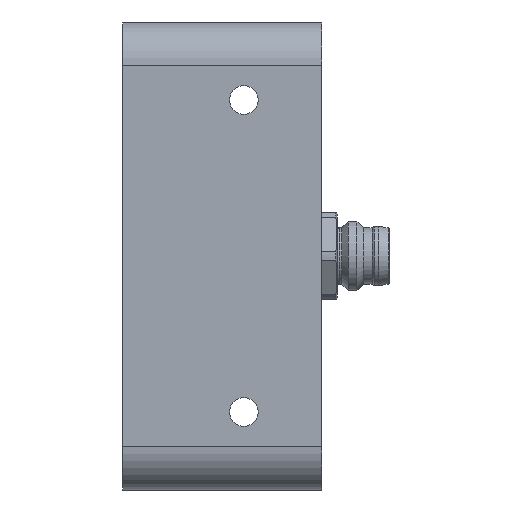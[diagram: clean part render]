
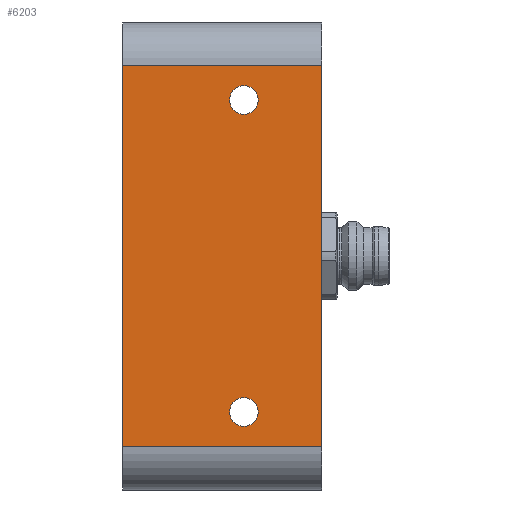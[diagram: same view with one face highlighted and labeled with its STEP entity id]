
A CAD part, left-side view. The second image highlights one B-rep face of the part: STEP entity #6203.
In plain terms, the highlighted planar face has unit normal (-1, 0, 0).
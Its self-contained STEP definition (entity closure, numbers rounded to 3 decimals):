
#19 = DIRECTION ( 'NONE',  ( 0., 0., -1. ) ) ;
#399 = VERTEX_POINT ( 'NONE', #8545 ) ;
#626 = VERTEX_POINT ( 'NONE', #6016 ) ;
#690 = EDGE_CURVE ( 'NONE', #626, #7824, #1178, .T. ) ;
#1107 = PLANE ( 'NONE',  #6176 ) ;
#1178 = LINE ( 'NONE', #4994, #3160 ) ;
#1691 = CARTESIAN_POINT ( 'NONE',  ( -105., 0., 22. ) ) ;
#1791 = ORIENTED_EDGE ( 'NONE', *, *, #2170, .F. ) ;
#2046 = VERTEX_POINT ( 'NONE', #8124 ) ;
#2086 = FACE_OUTER_BOUND ( 'NONE', #3684, .T. ) ;
#2107 = EDGE_LOOP ( 'NONE', ( #7711 ) ) ;
#2164 = DIRECTION ( 'NONE',  ( 0., 0., 1. ) ) ;
#2170 = EDGE_CURVE ( 'NONE', #6631, #7824, #5891, .T. ) ;
#2174 = EDGE_LOOP ( 'NONE', ( #7566 ) ) ;
#2204 = DIRECTION ( 'NONE',  ( 0., -1., 0. ) ) ;
#2481 = DIRECTION ( 'NONE',  ( -1., 0., 0. ) ) ;
#2599 = CARTESIAN_POINT ( 'NONE',  ( -105., 0., 27. ) ) ;
#2614 = AXIS2_PLACEMENT_3D ( 'NONE', #7665, #2862, #2164 ) ;
#2862 = DIRECTION ( 'NONE',  ( -1., 0., 0. ) ) ;
#2976 = VERTEX_POINT ( 'NONE', #7506 ) ;
#3160 = VECTOR ( 'NONE', #2204, 1000. ) ;
#3650 = CARTESIAN_POINT ( 'NONE',  ( -105., -23., -22. ) ) ;
#3655 = ORIENTED_EDGE ( 'NONE', *, *, #5068, .T. ) ;
#3684 = EDGE_LOOP ( 'NONE', ( #7231, #6112, #1791, #3655 ) ) ;
#3817 = VECTOR ( 'NONE', #5696, 1000. ) ;
#3827 = CIRCLE ( 'NONE', #2614, 1.65 ) ;
#3863 = FACE_BOUND ( 'NONE', #2174, .T. ) ;
#4460 = CARTESIAN_POINT ( 'NONE',  ( -105., -14., -18. ) ) ;
#4906 = EDGE_CURVE ( 'NONE', #2046, #2046, #3827, .T. ) ;
#4994 = CARTESIAN_POINT ( 'NONE',  ( -105., 0., -22. ) ) ;
#5068 = EDGE_CURVE ( 'NONE', #6631, #399, #8080, .T. ) ;
#5206 = DIRECTION ( 'NONE',  ( 0., 0., -1. ) ) ;
#5302 = EDGE_CURVE ( 'NONE', #626, #399, #7745, .T. ) ;
#5363 = CARTESIAN_POINT ( 'NONE',  ( -105., 0., 27. ) ) ;
#5584 = VECTOR ( 'NONE', #19, 1000. ) ;
#5694 = FACE_BOUND ( 'NONE', #2107, .T. ) ;
#5696 = DIRECTION ( 'NONE',  ( 0., 1., 0. ) ) ;
#5891 = LINE ( 'NONE', #6776, #5584 ) ;
#5961 = VECTOR ( 'NONE', #6184, 1000. ) ;
#6016 = CARTESIAN_POINT ( 'NONE',  ( -105., 0., -22. ) ) ;
#6112 = ORIENTED_EDGE ( 'NONE', *, *, #690, .T. ) ;
#6176 = AXIS2_PLACEMENT_3D ( 'NONE', #2599, #7939, #5206 ) ;
#6184 = DIRECTION ( 'NONE',  ( 0., 0., 1. ) ) ;
#6203 = ADVANCED_FACE ( 'NONE', ( #5694, #3863, #2086 ), #1107, .F. ) ;
#6631 = VERTEX_POINT ( 'NONE', #7220 ) ;
#6634 = CIRCLE ( 'NONE', #8303, 1.65 ) ;
#6712 = EDGE_CURVE ( 'NONE', #2976, #2976, #6634, .T. ) ;
#6776 = CARTESIAN_POINT ( 'NONE',  ( -105., -23., -22. ) ) ;
#7220 = CARTESIAN_POINT ( 'NONE',  ( -105., -23., 22. ) ) ;
#7231 = ORIENTED_EDGE ( 'NONE', *, *, #5302, .F. ) ;
#7506 = CARTESIAN_POINT ( 'NONE',  ( -105., -14., -16.35 ) ) ;
#7566 = ORIENTED_EDGE ( 'NONE', *, *, #6712, .F. ) ;
#7665 = CARTESIAN_POINT ( 'NONE',  ( -105., -14., 18. ) ) ;
#7711 = ORIENTED_EDGE ( 'NONE', *, *, #4906, .F. ) ;
#7745 = LINE ( 'NONE', #5363, #5961 ) ;
#7824 = VERTEX_POINT ( 'NONE', #3650 ) ;
#7939 = DIRECTION ( 'NONE',  ( 1., 0., 0. ) ) ;
#8080 = LINE ( 'NONE', #1691, #3817 ) ;
#8124 = CARTESIAN_POINT ( 'NONE',  ( -105., -14., 19.65 ) ) ;
#8303 = AXIS2_PLACEMENT_3D ( 'NONE', #4460, #2481, #8610 ) ;
#8545 = CARTESIAN_POINT ( 'NONE',  ( -105., 0., 22. ) ) ;
#8610 = DIRECTION ( 'NONE',  ( 0., 0., 1. ) ) ;
